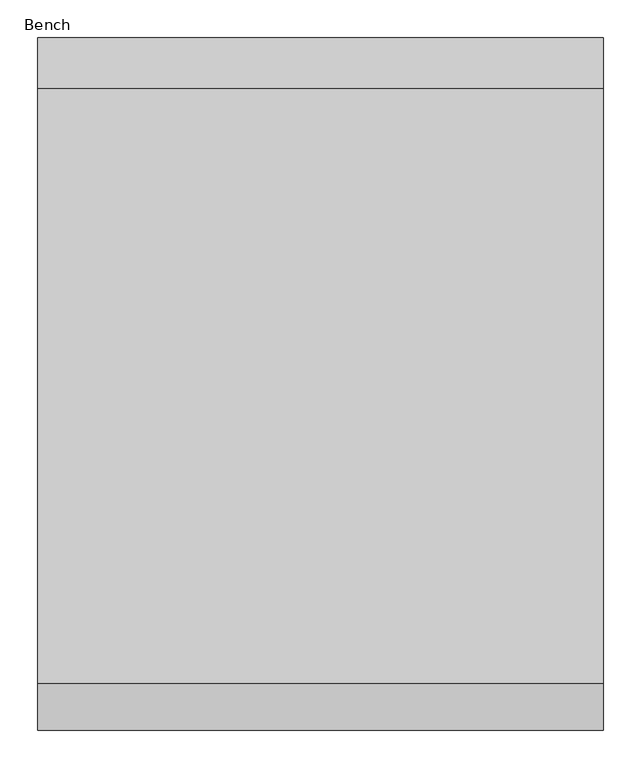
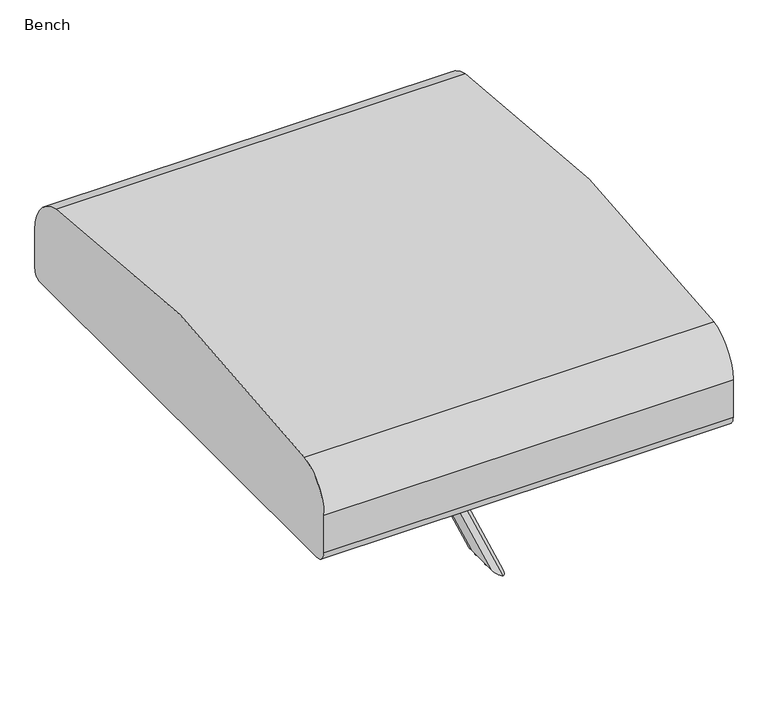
"""IFC4 building model written with IfcOpenShell, lengths in millimetres: furniture geometry, Coalesse_AM_Seating_LoungeChair_Sistema_LegBase_OneSeatConnector : Bench."""

from ifc_helpers import new_model, si_unit, point, frame, frame_2d, origin, origin_with_axes, place, context, project, spatial, polyline, circle_curve, ellipse_curve, trimmed, segment, composite_curve, outline, extrude, source, transform, mapped, element, save
from ifc_brep_helpers import plane_surface, cylinder_surface, advanced_brep


def bench_5b4734e7(model_context):
    return source(origin(), model_context, "Body", "SolidModel", [
        extrude(outline(composite_curve([segment(trimmed(circle_curve(frame_2d((0.0, 335.9943389)), 6.096), [point((-6.096, 335.9943389))], [point((6.096, 335.9943389))], False, "CARTESIAN"), True, "CONTINUOUS"), segment(trimmed(circle_curve(frame_2d((0.0, 335.9943389)), 6.096), [point((6.096, 335.9943389))], [point((-6.096, 335.9943389))], False, "CARTESIAN"), True, "CONTINUOUS")], self_intersect=False)), origin_with_axes(), (0.0, 0.0, 1.0), 4.3662291),
        extrude(outline(composite_curve([segment(trimmed(circle_curve(frame_2d((0.0, 303.6385124)), 6.096), [point((-6.096, 303.6385124))], [point((6.096, 303.6385124))], False, "CARTESIAN"), True, "CONTINUOUS"), segment(trimmed(circle_curve(frame_2d((0.0, 303.6385124)), 6.096), [point((6.096, 303.6385124))], [point((-6.096, 303.6385124))], False, "CARTESIAN"), True, "CONTINUOUS")], self_intersect=False)), origin_with_axes(), (0.0, 0.0, 1.0), 4.3662291),
        extrude(outline(composite_curve([segment(trimmed(circle_curve(frame_2d((0.0, -335.9943389)), 6.096), [point((-6.096, -335.9943389))], [point((6.096, -335.9943389))], False, "CARTESIAN"), True, "CONTINUOUS"), segment(trimmed(circle_curve(frame_2d((0.0, -335.9943389)), 6.096), [point((6.096, -335.9943389))], [point((-6.096, -335.9943389))], False, "CARTESIAN"), True, "CONTINUOUS")], self_intersect=False)), origin_with_axes(), (0.0, 0.0, 1.0), 4.3662291),
        extrude(outline(composite_curve([segment(trimmed(circle_curve(frame_2d((0.0, -303.6385124)), 6.096), [point((-6.096, -303.6385124))], [point((6.096, -303.6385124))], False, "CARTESIAN"), True, "CONTINUOUS"), segment(trimmed(circle_curve(frame_2d((0.0, -303.6385124)), 6.096), [point((6.096, -303.6385124))], [point((-6.096, -303.6385124))], False, "CARTESIAN"), True, "CONTINUOUS")], self_intersect=False)), origin_with_axes(), (0.0, 0.0, 1.0), 4.3662291),
        advanced_brep(
        [(-8.1591128, 0.0, 154.6555284), (0.0, 0.0, 142.7531063), (0.0, -271.5995388, 4.3662291), (-8.1591128, -294.9593577, 4.3662291), (8.8360556, 0.0, 154.6555284), (8.8360556, -294.9593577, 4.3662291), (8.8360556, 294.9593577, 4.3662291), (8.8360556, 360.2442446, 4.3662291), (8.8360556, 0.0, 187.9198398), (8.8360556, -360.2442446, 4.3662291), (0.0, 0.0, 199.3202956), (0.0, -382.6188989, 4.3662291), (-8.1591128, 0.0, 187.9198398), (-8.1591128, -360.2442446, 4.3662291), (-8.1591128, 360.2442446, 4.3662291), (-8.1591128, 294.9593577, 4.3662291), (0.0, 271.5995388, 4.3662291), (0.0, 382.6188989, 4.3662291)],
        [
            (0, 1, ellipse_curve(frame((2.8126701, 0.0, 154.6555284), z_axis=(0.0, -0.9999999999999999, 0.0), x_axis=(0.0, 0.0, -1.0)), 12.3139198, 10.9717828)),
            (1, 2),
            (2, 3, ellipse_curve(frame((2.8126701, -294.9593577, 4.3662291), z_axis=(0.0, 0.0, 1.0), x_axis=(0.0, -0.9999999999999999, 0.0)), 24.1674283, 10.9717828)),
            (3, 0),
            (1, 4, ellipse_curve(frame((-1.9461754, 0.0, 154.6555284), z_axis=(0.0, -0.9999999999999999, 0.0), x_axis=(0.0, 0.0, -1.0)), 12.1011807, 10.782231)),
            (4, 5),
            (5, 2, ellipse_curve(frame((-1.9461754, -294.9593577, 4.3662291), z_axis=(0.0, 0.0, 1.0), x_axis=(0.0, -0.9999999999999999, 0.0)), 23.7499044, 10.782231)),
            (4, 6),
            (6, 7),
            (7, 8),
            (8, 9),
            (9, 5),
            (8, 10, ellipse_curve(frame((-1.4206937, 0.0, 187.9198398), z_axis=(0.0, -0.9999999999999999, 0.0), x_axis=(0.0, 0.0, -1.0)), 11.5114188, 10.2567493)),
            (10, 11),
            (11, 9, ellipse_curve(frame((-1.4206937, -360.2442446, 4.3662291), z_axis=(0.0, 0.0, 1.0), x_axis=(0.0, -0.9999999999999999, 0.0)), 22.5924315, 10.2567493)),
            (10, 12, ellipse_curve(frame((2.2435904, 0.0, 187.9198398), z_axis=(0.0, -0.9999999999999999, 0.0), x_axis=(0.0, 0.0, -1.0)), 11.6752267, 10.4027032)),
            (12, 13),
            (13, 11, ellipse_curve(frame((2.2435904, -360.2442446, 4.3662291), z_axis=(0.0, 0.0, 1.0), x_axis=(0.0, -0.9999999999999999, 0.0)), 22.9139226, 10.4027032)),
            (3, 13),
            (12, 14),
            (14, 15),
            (15, 0),
            (15, 16, ellipse_curve(frame((2.8126701, 294.9593577, 4.3662291), z_axis=(0.0, 0.0, 1.0), x_axis=(0.0, -1.0, 0.0)), 24.1674283, 10.9717828)),
            (16, 1),
            (16, 6, ellipse_curve(frame((-1.9461754, 294.9593577, 4.3662291), z_axis=(0.0, 0.0, 1.0), x_axis=(0.0, -1.0, 0.0)), 23.7499044, 10.782231)),
            (7, 17, ellipse_curve(frame((-1.4206937, 360.2442446, 4.3662291), z_axis=(0.0, 0.0, 1.0), x_axis=(0.0, -1.0, 0.0)), 22.5924315, 10.2567493)),
            (17, 10),
            (17, 14, ellipse_curve(frame((2.2435904, 360.2442446, 4.3662291), z_axis=(0.0, 0.0, 1.0), x_axis=(0.0, -1.0, 0.0)), 22.9139226, 10.4027032)),
        ],
        [
            cylinder_surface(frame((2.8126701, -406.1496224, -52.2880405), z_axis=(0.0, -0.891006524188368, -0.45399049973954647), x_axis=(1.0, 0.0, 0.0)), 10.9717828),
            cylinder_surface(frame((-1.9461754, -406.1496224, -52.2880405), z_axis=(0.0, -0.891006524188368, -0.45399049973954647), x_axis=(1.0, 0.0, 0.0)), 10.782231),
            plane_surface(frame((8.8360556, -406.1496224, -52.2880405), z_axis=(1.0, 0.0, 0.0), x_axis=(0.0, 0.8910065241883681, 0.45399049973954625))),
            cylinder_surface(frame((-1.4206937, -419.605319, -25.8797489), z_axis=(0.0, -0.891006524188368, -0.45399049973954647), x_axis=(1.0, 0.0, 0.0)), 10.2567493),
            cylinder_surface(frame((2.2435904, -419.605319, -25.8797489), z_axis=(0.0, -0.891006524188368, -0.45399049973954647), x_axis=(1.0, 0.0, 0.0)), 10.4027032),
            plane_surface(frame((-8.1591128, -419.605319, -25.8797489), z_axis=(-1.0000000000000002, 0.0, 0.0), x_axis=(0.0, 0.8910065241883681, 0.45399049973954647))),
            cylinder_surface(frame((2.8126701, 27.0708966, 140.8622177), z_axis=(0.0, -0.8910065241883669, 0.45399049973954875), x_axis=(1.0, 0.0, 0.0)), 10.9717828),
            cylinder_surface(frame((-1.9461754, 27.0708966, 140.8622177), z_axis=(0.0, -0.8910065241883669, 0.45399049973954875), x_axis=(1.0, 0.0, 0.0)), 10.782231),
            cylinder_surface(frame((-1.4206937, 40.5265933, 167.2705092), z_axis=(0.0, -0.8910065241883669, 0.45399049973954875), x_axis=(1.0, 0.0, 0.0)), 10.2567493),
            cylinder_surface(frame((2.2435904, 40.5265933, 167.2705092), z_axis=(0.0, -0.8910065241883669, 0.45399049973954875), x_axis=(1.0, 0.0, 0.0)), 10.4027032),
            plane_surface(frame((-304.8, 253.4374013, 4.3662291), z_axis=(0.0, 0.0, -1.0), x_axis=(1.0, 0.0, 0.0))),
            plane_surface(frame((-304.8, -424.8336244, 4.3662291), z_axis=(0.0, 0.0, -1.0), x_axis=(1.0, 0.0, 0.0))),
        ],
        [
            (0, [[1, 2, 3, 4]]),
            (1, [[5, 6, 7, -2]]),
            (2, [[-6, 8, 9, 10, 11, 12]]),
            (3, [[13, 14, 15, -11]]),
            (4, [[16, 17, 18, -14]]),
            (5, [[-4, 19, -17, 20, 21, 22]]),
            (6, [[-1, -22, 23, 24]]),
            (7, [[-5, -24, 25, -8]]),
            (8, [[-13, -10, 26, 27]]),
            (9, [[-16, -27, 28, -20]]),
            (10, [[-9, -25, -23, -21, -28, -26]]),
            (11, [[-3, -7, -12, -15, -18, -19]]),
        ],
    ),
        extrude(outline(composite_curve([segment(polyline([(179.3836606, 22.6505283), (179.3836606, -22.0535686)]), True, "CONTINUOUS"), segment(trimmed(circle_curve(frame_2d((176.3356606, -22.0535686)), 3.048), [point((179.3836606, -22.0535686))], [point((176.3356606, -25.1015686))], False, "CARTESIAN"), True, "CONTINUOUS"), segment(polyline([(176.3356606, -25.1015686), (157.056462, -25.1015686)]), True, "CONTINUOUS"), segment(trimmed(circle_curve(frame_2d((157.056462, -22.0370274)), 3.0645412), [point((157.056462, -25.1015686))], [point((153.9919209, -22.0370274))], False, "CARTESIAN"), True, "CONTINUOUS"), segment(polyline([(153.9919209, -22.0370274), (153.9919209, 22.6505283)]), True, "CONTINUOUS"), segment(trimmed(circle_curve(frame_2d((157.0399209, 22.6505283)), 3.048), [point((153.9919209, 22.6505283))], [point((157.0399209, 25.6985283))], False, "CARTESIAN"), True, "CONTINUOUS"), segment(polyline([(157.0399209, 25.6985283), (176.3356606, 25.6985283)]), True, "CONTINUOUS"), segment(trimmed(circle_curve(frame_2d((176.3356606, 22.6505283)), 3.048), [point((176.3356606, 25.6985283))], [point((179.3836606, 22.6505283))], False, "CARTESIAN"), True, "CONTINUOUS")], self_intersect=False)), frame((0.0, -222.3519802, 0.0), z_axis=(0.0, 1.0, 0.0), x_axis=(0.0, 0.0, 1.0)), (0.0, 0.0, 1.0), 444.7039604),
        extrude(outline(composite_curve([segment(trimmed(circle_curve(frame_2d((-438.9184381, 228.2277814)), 22.352), [point((-438.9184381, 205.8757814))], [point((-461.2704381, 228.2277814))], False, "CARTESIAN"), True, "CONTINUOUS"), segment(polyline([(-461.2704381, 228.2277814), (-461.2704381, 301.4421993)]), True, "CONTINUOUS"), segment(trimmed(circle_curve(frame_2d((-385.0704381, 301.4421993)), 76.2), [point((-461.2704381, 301.4421993))], [point((-398.9277015, 376.3716077))], False, "CARTESIAN"), True, "CONTINUOUS"), segment(trimmed(circle_curve(frame_2d((2.2103559, -1792.6740646)), 2205.8265729), [point((-398.9277015, 376.3716077))], [point((391.4981164, 378.5297281))], False, "CARTESIAN"), True, "CONTINUOUS"), segment(trimmed(circle_curve(frame_2d((376.9295619, 297.2754376)), 82.55), [point((391.4981164, 378.5297281))], [point((459.4795619, 297.2754376))], False, "CARTESIAN"), True, "CONTINUOUS"), segment(polyline([(459.4795619, 297.2754376), (459.4795619, 222.649157)]), True, "CONTINUOUS"), segment(trimmed(circle_curve(frame_2d((442.7061864, 222.649157)), 16.7733756), [point((459.4795619, 222.649157))], [point((442.7061864, 205.8757814))], False, "CARTESIAN"), True, "CONTINUOUS"), segment(polyline([(442.7061864, 205.8757814), (-438.9184381, 205.8757814)]), True, "CONTINUOUS")], self_intersect=False)), frame((-374.8034773, 0.0, 0.0), z_axis=(1.0, 0.0, 0.0), x_axis=(0.0, 1.0, 0.0)), (0.0, 0.0, 1.0), 752.2863161),
    ])


if __name__ == "__main__":
    model = new_model("IFC4")
    model_context = context("Model", 3, world=origin())
    ifc_project = project(units=[si_unit("LENGTHUNIT", "METRE", prefix="MILLI")], contexts=[model_context])
    site = spatial("IfcSite", under=ifc_project)
    building = spatial("IfcBuilding", under=site)
    placement = place(None, origin())
    bench_shape = bench_5b4734e7(model_context)
    element("IfcFurniture", 1, ObjectType="Coalesse_AM_Seating_LoungeChair_Sistema_LegBase_OneSeatConnector : Bench", at=placement, inside=building, context=model_context, shape_type="MappedRepresentation", body=[
        mapped(bench_shape, transform((0.0, 0.0, 0.0), x_axis=(1.0, 0.0, 0.0), y_axis=(0.0, 1.0, 0.0), z_axis=(0.0, 0.0, 1.0))),
    ])
    save(model, "model.ifc")
